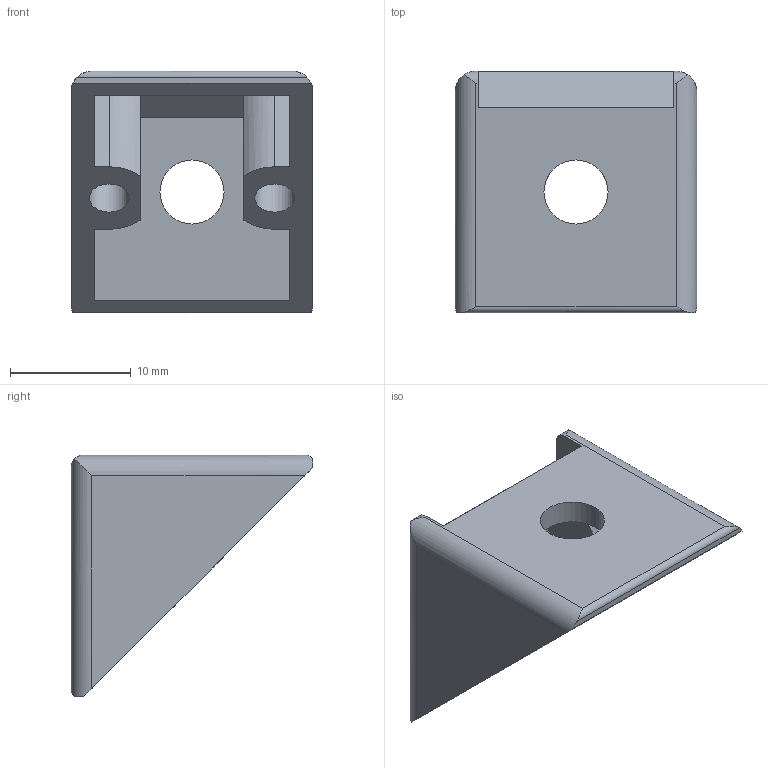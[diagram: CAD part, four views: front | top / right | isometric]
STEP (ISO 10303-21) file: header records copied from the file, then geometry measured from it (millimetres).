
FILE_DESCRIPTION (( 'STEP AP203' ), '1' );
FILE_NAME ('0105W2020ZN.STEP', '2024-09-03T09:20:03', ( 'Windows-Benutzer' ), ( '' ), 'SwSTEP 2.0', 'SolidWorks 2024', '' );
FILE_SCHEMA (( 'CONFIG_CONTROL_DESIGN' ));
Length unit declared in the file: millimetre
Products named in the file (1): 0105W2020ZN
Bounding box: 20 x 20 x 20 mm (x, y, z)
Volume: 2285.9 mm3; surface area: 2348.6 mm2
Topology: 1 solids, 1 shells, 45 faces, 120 edges, 80 vertices
Faces by surface type: plane 25, cylinder 20
Entity records: 1565 total; most frequent: CARTESIAN_POINT 362, ORIENTED_EDGE 240, DIRECTION 220, EDGE_CURVE 120, VERTEX_POINT 80, VECTOR 76, LINE 76, AXIS2_PLACEMENT_3D 72
